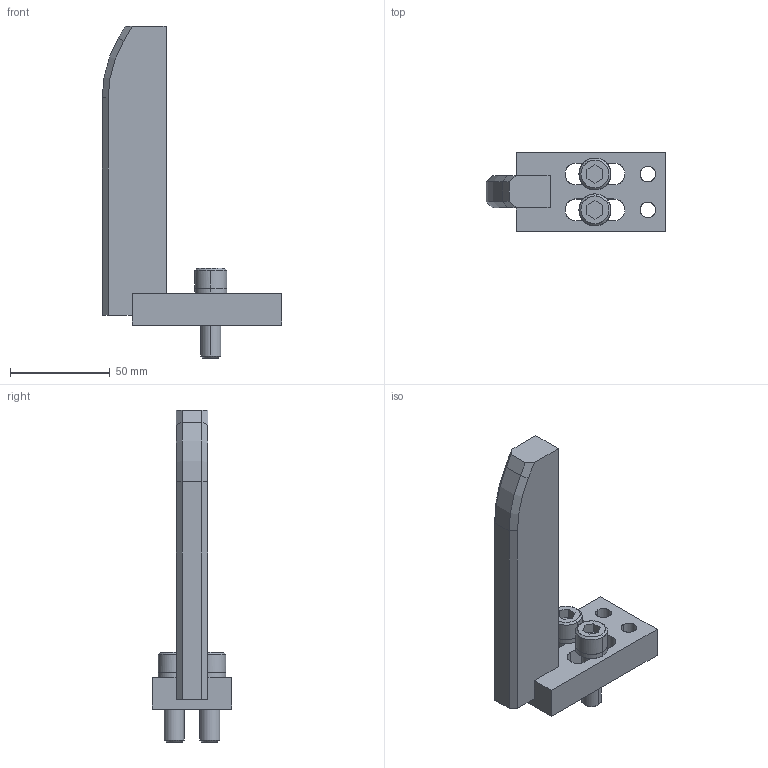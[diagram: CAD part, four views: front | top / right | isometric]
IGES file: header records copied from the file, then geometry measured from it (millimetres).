
Global section: file name: E:\UnigraphicsGraphicData\MISUMI_PRESS-PARTS\IGES\3d_ngnbc-150-20-m10_01537_r00.igs; native system: NX V5.0; preprocessor: UGS NX IGES V5.0; author: MISUMI; date: 20110105.162051; units: millimetre
Bounding box: 90 x 40 x 166.5 mm (x, y, z)
Surface area: 31214.7 mm2 (no closed solid volume)
Topology: 0 solids, 0 shells, 104 faces, 665 edges, 665 vertices
Faces by surface type: bspline 104
